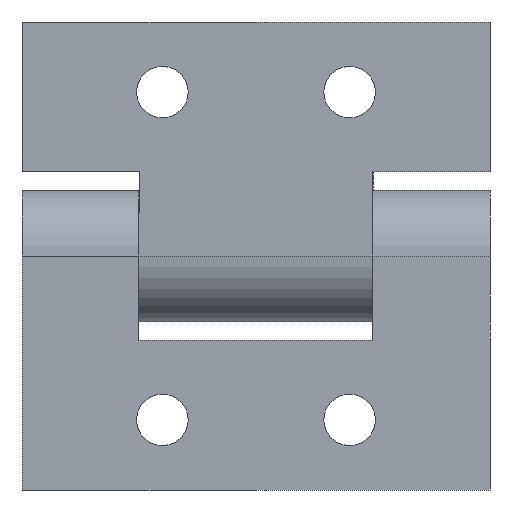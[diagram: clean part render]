
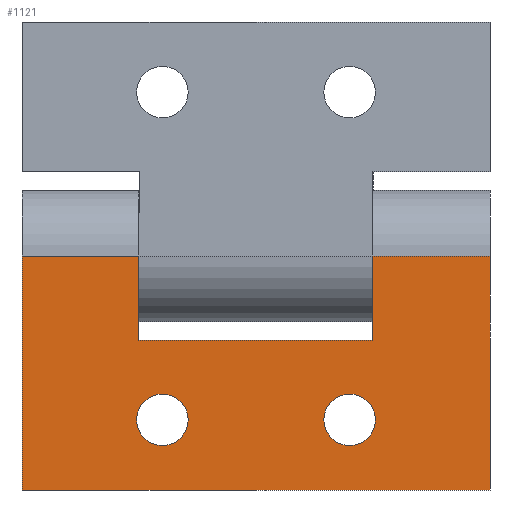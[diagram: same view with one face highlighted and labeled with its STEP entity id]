
A CAD part, front view. The second image highlights one B-rep face of the part: STEP entity #1121.
In plain terms, the highlighted planar face has unit normal (0, -1, 0).
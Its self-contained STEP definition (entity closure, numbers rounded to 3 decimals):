
#12 = CARTESIAN_POINT ( 'NONE',  ( -12.5, 0., -9. ) ) ;
#79 = ORIENTED_EDGE ( 'NONE', *, *, #1033, .T. ) ;
#115 = EDGE_CURVE ( 'NONE', #302, #991, #1749, .T. ) ;
#126 = EDGE_CURVE ( 'NONE', #341, #290, #1561, .T. ) ;
#135 = CARTESIAN_POINT ( 'NONE',  ( 12.5, 0., 0. ) ) ;
#155 = EDGE_CURVE ( 'NONE', #290, #1534, #1071, .T. ) ;
#170 = DIRECTION ( 'NONE',  ( 0., 0., -1. ) ) ;
#171 = DIRECTION ( 'NONE',  ( 0., 1., 0. ) ) ;
#186 = VECTOR ( 'NONE', #365, 1000. ) ;
#195 = ORIENTED_EDGE ( 'NONE', *, *, #115, .T. ) ;
#202 = VERTEX_POINT ( 'NONE', #12 ) ;
#238 = VERTEX_POINT ( 'NONE', #1417 ) ;
#245 = VERTEX_POINT ( 'NONE', #352 ) ;
#286 = CARTESIAN_POINT ( 'NONE',  ( 25., 0., 0. ) ) ;
#290 = VERTEX_POINT ( 'NONE', #1379 ) ;
#302 = VERTEX_POINT ( 'NONE', #135 ) ;
#305 = CIRCLE ( 'NONE', #1000, 2.75 ) ;
#341 = VERTEX_POINT ( 'NONE', #1562 ) ;
#352 = CARTESIAN_POINT ( 'NONE',  ( -10., 0., -20.25 ) ) ;
#356 = CARTESIAN_POINT ( 'NONE',  ( -12.5, 0., -9. ) ) ;
#364 = CIRCLE ( 'NONE', #1471, 2.75 ) ;
#365 = DIRECTION ( 'NONE',  ( 0., 0., -1. ) ) ;
#384 = CARTESIAN_POINT ( 'NONE',  ( 10., 0., -14.75 ) ) ;
#420 = EDGE_CURVE ( 'NONE', #1582, #302, #1668, .T. ) ;
#430 = VECTOR ( 'NONE', #1443, 1000. ) ;
#435 = VECTOR ( 'NONE', #896, 1000. ) ;
#446 = EDGE_CURVE ( 'NONE', #1836, #852, #305, .T. ) ;
#483 = EDGE_CURVE ( 'NONE', #1898, #1534, #869, .T. ) ;
#485 = DIRECTION ( 'NONE',  ( 0., 1., 0. ) ) ;
#495 = ORIENTED_EDGE ( 'NONE', *, *, #446, .T. ) ;
#575 = LINE ( 'NONE', #1831, #1844 ) ;
#619 = EDGE_CURVE ( 'NONE', #852, #1836, #1442, .T. ) ;
#634 = CARTESIAN_POINT ( 'NONE',  ( 10., 0., -17.5 ) ) ;
#652 = EDGE_CURVE ( 'NONE', #1582, #1898, #1104, .T. ) ;
#681 = FACE_OUTER_BOUND ( 'NONE', #1539, .T. ) ;
#686 = LINE ( 'NONE', #356, #814 ) ;
#792 = CARTESIAN_POINT ( 'NONE',  ( 10., 0., -17.5 ) ) ;
#793 = CARTESIAN_POINT ( 'NONE',  ( 12.5, 0., -9. ) ) ;
#813 = ORIENTED_EDGE ( 'NONE', *, *, #619, .T. ) ;
#814 = VECTOR ( 'NONE', #1456, 1000. ) ;
#826 = CARTESIAN_POINT ( 'NONE',  ( 25., 0., 0. ) ) ;
#852 = VERTEX_POINT ( 'NONE', #384 ) ;
#869 = LINE ( 'NONE', #1785, #1794 ) ;
#871 = EDGE_LOOP ( 'NONE', ( #79, #1255 ) ) ;
#891 = ORIENTED_EDGE ( 'NONE', *, *, #652, .F. ) ;
#896 = DIRECTION ( 'NONE',  ( -1., 0., 0. ) ) ;
#924 = DIRECTION ( 'NONE',  ( 0., 0., 1. ) ) ;
#936 = CARTESIAN_POINT ( 'NONE',  ( -25., 0., 0. ) ) ;
#963 = ORIENTED_EDGE ( 'NONE', *, *, #1619, .T. ) ;
#973 = DIRECTION ( 'NONE',  ( 0., 0., 1. ) ) ;
#979 = CARTESIAN_POINT ( 'NONE',  ( 25., 0., 0. ) ) ;
#991 = VERTEX_POINT ( 'NONE', #1254 ) ;
#998 = VECTOR ( 'NONE', #1081, 1000. ) ;
#1000 = AXIS2_PLACEMENT_3D ( 'NONE', #634, #1720, #1250 ) ;
#1033 = EDGE_CURVE ( 'NONE', #238, #245, #364, .T. ) ;
#1071 = LINE ( 'NONE', #936, #1466 ) ;
#1081 = DIRECTION ( 'NONE',  ( 0., 0., -1. ) ) ;
#1096 = CARTESIAN_POINT ( 'NONE',  ( -25., 0., -25. ) ) ;
#1104 = LINE ( 'NONE', #1889, #186 ) ;
#1121 = ADVANCED_FACE ( 'NONE', ( #1899, #1893, #681 ), #1304, .F. ) ;
#1158 = ORIENTED_EDGE ( 'NONE', *, *, #155, .T. ) ;
#1183 = EDGE_LOOP ( 'NONE', ( #813, #495 ) ) ;
#1250 = DIRECTION ( 'NONE',  ( 0., 0., 1. ) ) ;
#1254 = CARTESIAN_POINT ( 'NONE',  ( 12.5, 0., -9. ) ) ;
#1255 = ORIENTED_EDGE ( 'NONE', *, *, #1555, .T. ) ;
#1304 = PLANE ( 'NONE',  #1784 ) ;
#1325 = DIRECTION ( 'NONE',  ( -1., 0., 0. ) ) ;
#1339 = EDGE_CURVE ( 'NONE', #202, #341, #575, .T. ) ;
#1379 = CARTESIAN_POINT ( 'NONE',  ( -25., 0., 0. ) ) ;
#1403 = CARTESIAN_POINT ( 'NONE',  ( -10., 0., -17.5 ) ) ;
#1409 = DIRECTION ( 'NONE',  ( 0., 0., 1. ) ) ;
#1417 = CARTESIAN_POINT ( 'NONE',  ( -10., 0., -14.75 ) ) ;
#1442 = CIRCLE ( 'NONE', #1955, 2.75 ) ;
#1443 = DIRECTION ( 'NONE',  ( -1., 0., 0. ) ) ;
#1456 = DIRECTION ( 'NONE',  ( -1., 0., 0. ) ) ;
#1466 = VECTOR ( 'NONE', #170, 1000. ) ;
#1471 = AXIS2_PLACEMENT_3D ( 'NONE', #1403, #485, #1576 ) ;
#1487 = ORIENTED_EDGE ( 'NONE', *, *, #483, .F. ) ;
#1534 = VERTEX_POINT ( 'NONE', #1096 ) ;
#1539 = EDGE_LOOP ( 'NONE', ( #1706, #1776, #1158, #1487, #891, #1775, #195, #963 ) ) ;
#1555 = EDGE_CURVE ( 'NONE', #245, #238, #1964, .T. ) ;
#1561 = LINE ( 'NONE', #826, #430 ) ;
#1562 = CARTESIAN_POINT ( 'NONE',  ( -12.5, 0., 0. ) ) ;
#1576 = DIRECTION ( 'NONE',  ( 0., 0., 1. ) ) ;
#1582 = VERTEX_POINT ( 'NONE', #1700 ) ;
#1591 = CARTESIAN_POINT ( 'NONE',  ( -10., 0., -17.5 ) ) ;
#1619 = EDGE_CURVE ( 'NONE', #991, #202, #686, .T. ) ;
#1654 = CARTESIAN_POINT ( 'NONE',  ( 10., 0., -20.25 ) ) ;
#1668 = LINE ( 'NONE', #286, #435 ) ;
#1700 = CARTESIAN_POINT ( 'NONE',  ( 25., 0., 0. ) ) ;
#1706 = ORIENTED_EDGE ( 'NONE', *, *, #1339, .T. ) ;
#1720 = DIRECTION ( 'NONE',  ( 0., 1., 0. ) ) ;
#1729 = CARTESIAN_POINT ( 'NONE',  ( 25., 0., -25. ) ) ;
#1749 = LINE ( 'NONE', #793, #998 ) ;
#1753 = DIRECTION ( 'NONE',  ( 0., 1., 0. ) ) ;
#1775 = ORIENTED_EDGE ( 'NONE', *, *, #420, .T. ) ;
#1776 = ORIENTED_EDGE ( 'NONE', *, *, #126, .T. ) ;
#1778 = AXIS2_PLACEMENT_3D ( 'NONE', #1591, #171, #924 ) ;
#1784 = AXIS2_PLACEMENT_3D ( 'NONE', #979, #1753, #973 ) ;
#1785 = CARTESIAN_POINT ( 'NONE',  ( 25., 0., -25. ) ) ;
#1794 = VECTOR ( 'NONE', #1325, 1000. ) ;
#1831 = CARTESIAN_POINT ( 'NONE',  ( -12.5, 0., -9. ) ) ;
#1836 = VERTEX_POINT ( 'NONE', #1654 ) ;
#1844 = VECTOR ( 'NONE', #1969, 1000. ) ;
#1867 = DIRECTION ( 'NONE',  ( 0., 1., 0. ) ) ;
#1889 = CARTESIAN_POINT ( 'NONE',  ( 25., 0., 0. ) ) ;
#1893 = FACE_BOUND ( 'NONE', #871, .T. ) ;
#1898 = VERTEX_POINT ( 'NONE', #1729 ) ;
#1899 = FACE_BOUND ( 'NONE', #1183, .T. ) ;
#1955 = AXIS2_PLACEMENT_3D ( 'NONE', #792, #1867, #1409 ) ;
#1964 = CIRCLE ( 'NONE', #1778, 2.75 ) ;
#1969 = DIRECTION ( 'NONE',  ( 0., 0., 1. ) ) ;
